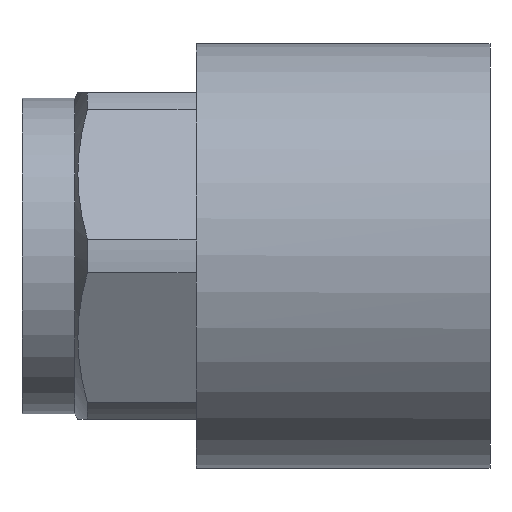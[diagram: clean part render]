
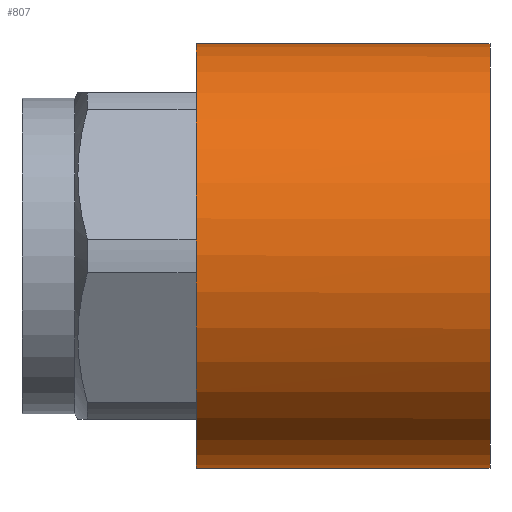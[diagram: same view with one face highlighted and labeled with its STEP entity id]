
A CAD part, front view. The second image highlights one B-rep face of the part: STEP entity #807.
In plain terms, the highlighted cylindrical face has radius 9.75 mm (diameter 19.5 mm), a full revolution.
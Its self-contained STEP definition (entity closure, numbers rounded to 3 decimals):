
#121=CARTESIAN_POINT('',(21.5,9.75,0.0));
#122=VERTEX_POINT('',#121);
#123=CARTESIAN_POINT('',(21.5,0.,0.0));
#124=DIRECTION('',(1.0,0.0,0.0));
#125=DIRECTION('',(0.0,1.0,0.0));
#126=AXIS2_PLACEMENT_3D('',#123,#124,#125);
#127=CIRCLE('',#126,9.75);
#128=EDGE_CURVE('',#122,#122,#127,.T.);
#376=CARTESIAN_POINT('',(8.,3.38,9.145));
#377=VERTEX_POINT('',#376);
#378=CARTESIAN_POINT('',(8.,0.,0.0));
#379=DIRECTION('',(1.0,0.0,0.0));
#380=DIRECTION('',(0.0,1.0,0.0));
#381=AXIS2_PLACEMENT_3D('',#378,#379,#380);
#382=CIRCLE('',#381,9.75);
#383=EDGE_CURVE('',#377,#377,#382,.T.);
#796=CARTESIAN_POINT('',(14.75,0.,0.0));
#797=DIRECTION('',(1.0,0.,0.0));
#798=DIRECTION('',(0.0,1.0,0.0));
#799=AXIS2_PLACEMENT_3D('',#796,#797,#798);
#800=CYLINDRICAL_SURFACE('',#799,9.75);
#801=ORIENTED_EDGE('',*,*,#128,.F.);
#802=EDGE_LOOP('',(#801));
#803=FACE_OUTER_BOUND('',#802,.T.);
#804=ORIENTED_EDGE('',*,*,#383,.T.);
#805=EDGE_LOOP('',(#804));
#806=FACE_BOUND('',#805,.T.);
#807=ADVANCED_FACE('',(#803,#806),#800,.T.);
